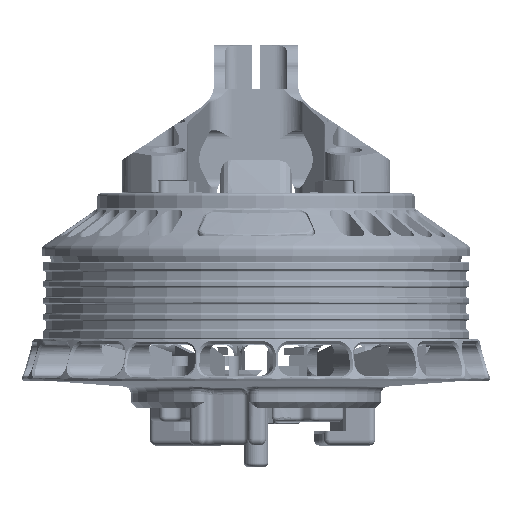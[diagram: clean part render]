
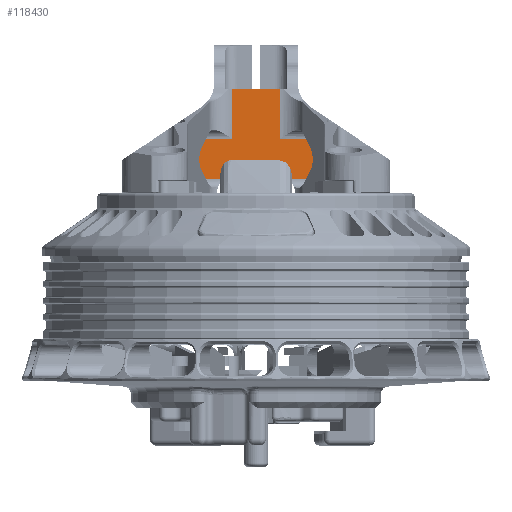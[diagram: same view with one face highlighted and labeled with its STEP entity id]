
A CAD part, top view. The second image highlights one B-rep face of the part: STEP entity #118430.
In plain terms, the highlighted planar face has unit normal (0, 0, 1).
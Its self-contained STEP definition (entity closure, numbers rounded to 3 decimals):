
#215 = EDGE_CURVE ( 'NONE', #60490, #29124, #25175, .T. ) ;
#2803 = EDGE_CURVE ( 'NONE', #57360, #92846, #130801, .T. ) ;
#2856 = CARTESIAN_POINT ( 'NONE',  ( -4.5, 12.5, -11.5 ) ) ;
#4394 = VECTOR ( 'NONE', #75085, 1000. ) ;
#6120 = CARTESIAN_POINT ( 'NONE',  ( -3.962, 27.5, -11.5 ) ) ;
#6347 = LINE ( 'NONE', #62757, #68805 ) ;
#8505 = ORIENTED_EDGE ( 'NONE', *, *, #2803, .F. ) ;
#10155 = LINE ( 'NONE', #140062, #4394 ) ;
#10935 = VECTOR ( 'NONE', #38517, 1000. ) ;
#11473 = VECTOR ( 'NONE', #74753, 1000. ) ;
#15282 = CARTESIAN_POINT ( 'NONE',  ( 14., 19.25, -11.5 ) ) ;
#15490 = VECTOR ( 'NONE', #92058, 1000. ) ;
#16799 = VECTOR ( 'NONE', #78199, 1000. ) ;
#21246 = CARTESIAN_POINT ( 'NONE',  ( 7.326, 27.5, -11.5 ) ) ;
#23017 = LINE ( 'NONE', #23710, #95801 ) ;
#23710 = CARTESIAN_POINT ( 'NONE',  ( 22.5, 12.5, -11.5 ) ) ;
#23756 = FACE_OUTER_BOUND ( 'NONE', #76494, .T. ) ;
#25175 = LINE ( 'NONE', #2856, #15490 ) ;
#27951 = CARTESIAN_POINT ( 'NONE',  ( 7.326, 35., -11.5 ) ) ;
#29124 = VERTEX_POINT ( 'NONE', #66698 ) ;
#34664 = CARTESIAN_POINT ( 'NONE',  ( 14., 35., -11.5 ) ) ;
#36416 = LINE ( 'NONE', #82016, #10935 ) ;
#38517 = DIRECTION ( 'NONE',  ( -1., 0., 0. ) ) ;
#44019 = CARTESIAN_POINT ( 'NONE',  ( -4.5, 12.5, -11.5 ) ) ;
#44606 = ORIENTED_EDGE ( 'NONE', *, *, #215, .T. ) ;
#44709 = ORIENTED_EDGE ( 'NONE', *, *, #140377, .F. ) ;
#45273 = EDGE_CURVE ( 'NONE', #57360, #131214, #10155, .T. ) ;
#45844 = EDGE_CURVE ( 'NONE', #64698, #105151, #130414, .T. ) ;
#46108 = CARTESIAN_POINT ( 'NONE',  ( 3.962, 19.25, -11.5 ) ) ;
#46362 = LINE ( 'NONE', #57094, #105224 ) ;
#48043 = CARTESIAN_POINT ( 'NONE',  ( 7.326, 19.25, -11.5 ) ) ;
#49879 = CARTESIAN_POINT ( 'NONE',  ( -3.962, 19.25, -11.5 ) ) ;
#57048 = ORIENTED_EDGE ( 'NONE', *, *, #81894, .F. ) ;
#57094 = CARTESIAN_POINT ( 'NONE',  ( 3.962, 35., -11.5 ) ) ;
#57360 = VERTEX_POINT ( 'NONE', #114421 ) ;
#57508 = EDGE_CURVE ( 'NONE', #131214, #60490, #23017, .T. ) ;
#59641 = ORIENTED_EDGE ( 'NONE', *, *, #118562, .F. ) ;
#59922 = ORIENTED_EDGE ( 'NONE', *, *, #98097, .F. ) ;
#60490 = VERTEX_POINT ( 'NONE', #44019 ) ;
#62757 = CARTESIAN_POINT ( 'NONE',  ( -3.962, 35., -11.5 ) ) ;
#64698 = VERTEX_POINT ( 'NONE', #6120 ) ;
#66698 = CARTESIAN_POINT ( 'NONE',  ( 4.5, 12.5, -11.5 ) ) ;
#68805 = VECTOR ( 'NONE', #104845, 1000. ) ;
#72539 = VERTEX_POINT ( 'NONE', #129579 ) ;
#73986 = CARTESIAN_POINT ( 'NONE',  ( 3.962, 27.5, -11.5 ) ) ;
#74551 = ORIENTED_EDGE ( 'NONE', *, *, #45844, .F. ) ;
#74753 = DIRECTION ( 'NONE',  ( 1., 0., 0. ) ) ;
#75085 = DIRECTION ( 'NONE',  ( 0., -1., 0. ) ) ;
#76494 = EDGE_LOOP ( 'NONE', ( #57048, #102313, #44709, #59641, #74551, #59922, #8505, #116202, #107826, #44606 ) ) ;
#77905 = VERTEX_POINT ( 'NONE', #15282 ) ;
#78199 = DIRECTION ( 'NONE',  ( 0., 1., 0. ) ) ;
#81894 = EDGE_CURVE ( 'NONE', #72539, #29124, #36416, .T. ) ;
#82016 = CARTESIAN_POINT ( 'NONE',  ( 7.326, 12.5, -11.5 ) ) ;
#82055 = CARTESIAN_POINT ( 'NONE',  ( -14., 12.5, -11.5 ) ) ;
#87973 = PLANE ( 'NONE',  #112146 ) ;
#92058 = DIRECTION ( 'NONE',  ( 1., 0., 0. ) ) ;
#92846 = VERTEX_POINT ( 'NONE', #49879 ) ;
#95801 = VECTOR ( 'NONE', #110778, 1000. ) ;
#98097 = EDGE_CURVE ( 'NONE', #92846, #64698, #6347, .T. ) ;
#102313 = ORIENTED_EDGE ( 'NONE', *, *, #119535, .T. ) ;
#102659 = VECTOR ( 'NONE', #120088, 1000. ) ;
#103599 = DIRECTION ( 'NONE',  ( 0., 0., -1. ) ) ;
#104355 = LINE ( 'NONE', #48043, #138658 ) ;
#104845 = DIRECTION ( 'NONE',  ( 0., 1., 0. ) ) ;
#105151 = VERTEX_POINT ( 'NONE', #73986 ) ;
#105224 = VECTOR ( 'NONE', #134139, 1000. ) ;
#107826 = ORIENTED_EDGE ( 'NONE', *, *, #57508, .T. ) ;
#110778 = DIRECTION ( 'NONE',  ( 1., 0., 0. ) ) ;
#112146 = AXIS2_PLACEMENT_3D ( 'NONE', #27951, #103599, #113604 ) ;
#113604 = DIRECTION ( 'NONE',  ( -1., 0., 0. ) ) ;
#114421 = CARTESIAN_POINT ( 'NONE',  ( -14., 19.25, -11.5 ) ) ;
#116202 = ORIENTED_EDGE ( 'NONE', *, *, #45273, .T. ) ;
#118430 = ADVANCED_FACE ( 'NONE', ( #23756 ), #87973, .F. ) ;
#118562 = EDGE_CURVE ( 'NONE', #105151, #122513, #46362, .T. ) ;
#119535 = EDGE_CURVE ( 'NONE', #72539, #77905, #132461, .T. ) ;
#120088 = DIRECTION ( 'NONE',  ( 1., 0., 0. ) ) ;
#122513 = VERTEX_POINT ( 'NONE', #46108 ) ;
#126723 = CARTESIAN_POINT ( 'NONE',  ( 7.326, 19.25, -11.5 ) ) ;
#129579 = CARTESIAN_POINT ( 'NONE',  ( 14., 12.5, -11.5 ) ) ;
#130414 = LINE ( 'NONE', #21246, #11473 ) ;
#130801 = LINE ( 'NONE', #126723, #102659 ) ;
#131214 = VERTEX_POINT ( 'NONE', #82055 ) ;
#132461 = LINE ( 'NONE', #34664, #16799 ) ;
#134139 = DIRECTION ( 'NONE',  ( 0., -1., 0. ) ) ;
#135833 = DIRECTION ( 'NONE',  ( 1., 0., 0. ) ) ;
#138658 = VECTOR ( 'NONE', #135833, 1000. ) ;
#140062 = CARTESIAN_POINT ( 'NONE',  ( -14., 35., -11.5 ) ) ;
#140377 = EDGE_CURVE ( 'NONE', #122513, #77905, #104355, .T. ) ;
